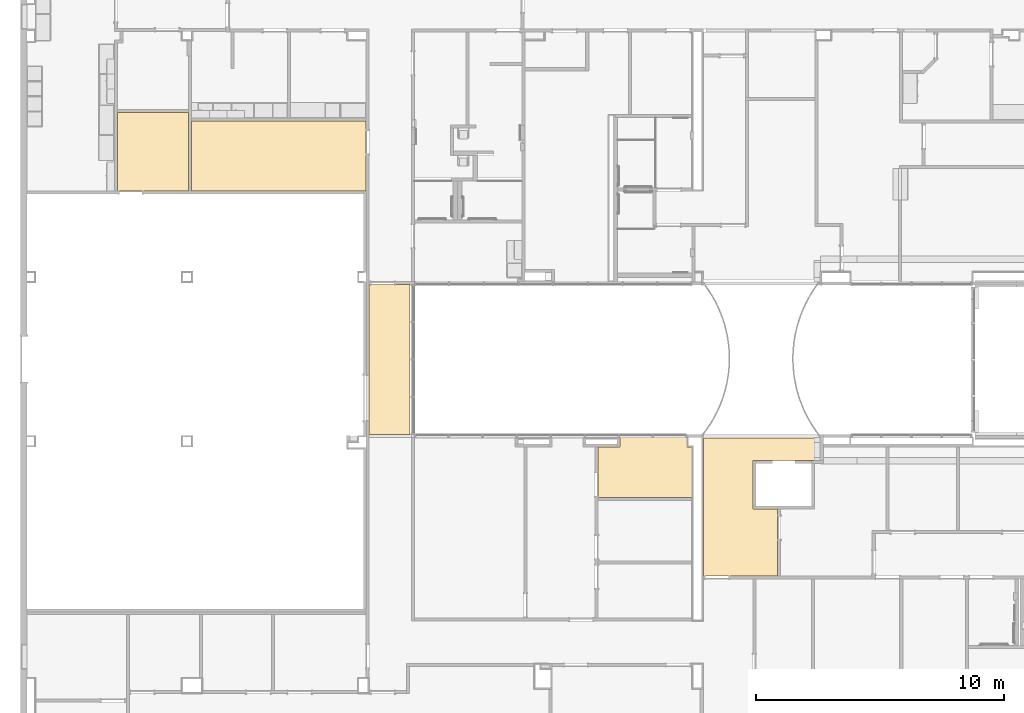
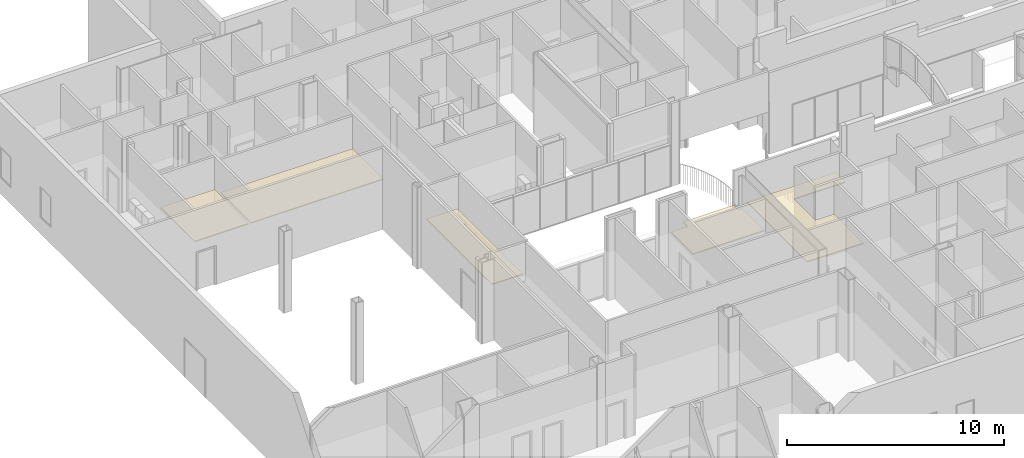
# One storey, part 27 of 47: 5 coverings.
"""IFC2X3 building model written with IfcOpenShell, lengths in metres."""

from ifc_helpers import new_model, entity, si_unit, converted_unit, frame, origin, place, context, project, spatial, face_set, surface_model, material, layer, layer_set, layer_usage, element, save


model = new_model("IFC2X3")

# Units and contexts
model_context = context("Model", 3, precision=1e-09, world=origin())
plan_context = context("Plan", 3, precision=1e-09, world=origin())
ifc_project = project(units=[si_unit("LENGTHUNIT", "METRE"), si_unit("AREAUNIT", "SQUARE_METRE"), si_unit("VOLUMEUNIT", "CUBIC_METRE"), converted_unit("PLANEANGLEUNIT", "DEGREE", entity("IfcRatioMeasure", 0.01745329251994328), si_unit("PLANEANGLEUNIT", "RADIAN"), dimensions=[0, 0, 0, 0, 0, 0, 0]), si_unit("TIMEUNIT", "SECOND")], contexts=[model_context, plan_context])

# Site, building, storey
site_placement = place(None, origin())
site = spatial("IfcSite", under=ifc_project, at=site_placement, Name="Default", CompositionType="ELEMENT")
building_placement = place(site_placement, origin())
building = spatial("IfcBuilding", under=site, at=building_placement, CompositionType="ELEMENT")
storey_placement = place(building_placement, frame((0.0, 0.0, 4.570000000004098)))
storey = spatial("IfcBuildingStorey", under=building, at=storey_placement, Name="Second Floor", CompositionType="ELEMENT", Elevation=4.570000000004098)

# Coverings
ifc_material_1 = material(Name="Default")
ifc_layer_1 = layer(ifc_material_1, 0.03599999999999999)
ifc_material_2 = material(Name="Ceiling Tile 600 x 600")
ifc_layer_2 = layer(ifc_material_2, 0.016)
ifc_layer_set = layer_set([ifc_layer_1, ifc_layer_2], Name="Compound Ceiling:ACT 600 x 600mm Grid")
ifc_layer_usage_1 = layer_usage(ifc_layer_set, "AXIS3", "NEGATIVE", 0.0)
covering_1_placement = place(storey_placement, origin())
element("IfcCovering", 1, at=covering_1_placement, inside=storey, material=ifc_layer_usage_1, Name="Compound Ceiling:ACT 600 x 600mm Grid", ObjectType="Compound Ceiling:ACT 600 x 600mm Grid", PredefinedType="CEILING", context=model_context, shape_type="SurfaceModel", body=[
    surface_model("IfcFaceBasedSurfaceModel", [(-40.60000000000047, 41.67443871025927, 2.732000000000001), (-40.60000000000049, 38.51843871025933, 2.732000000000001), (-43.47600000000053, 38.51843871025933, 2.732000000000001), (-43.47600000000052, 41.67443871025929, 2.732000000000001), (-40.60000000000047, 41.67443871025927, 2.680000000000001), (-40.60000000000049, 38.51843871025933, 2.680000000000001), (-43.47600000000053, 38.51843871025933, 2.680000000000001), (-43.47600000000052, 41.67443871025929, 2.680000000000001)], [face_set([[[0, 1, 2, 3]], [[4, 5, 6, 7]], [[3, 7, 4, 0]], [[2, 6, 7, 3]], [[1, 2, 6, 5]], [[0, 1, 5, 4]]])]),
])
ifc_layer_usage_2 = layer_usage(ifc_layer_set, "AXIS3", "NEGATIVE", 0.0)
covering_2_placement = place(storey_placement, origin())
element("IfcCovering", 2, at=covering_2_placement, inside=storey, material=ifc_layer_usage_2, Name="Compound Ceiling:ACT 600 x 600mm Grid", ObjectType="Compound Ceiling:ACT 600 x 600mm Grid", PredefinedType="CEILING", context=model_context, shape_type="SurfaceModel", body=[
    surface_model("IfcFaceBasedSurfaceModel", [(-33.44400000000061, 38.5184387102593, 2.732000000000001), (-40.47600000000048, 38.51843871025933, 2.732000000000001), (-40.47600000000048, 41.33443871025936, 2.732000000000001), (-33.4440000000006, 41.33443871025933, 2.732000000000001), (-33.44400000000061, 38.5184387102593, 2.680000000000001), (-40.47600000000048, 38.51843871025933, 2.680000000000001), (-40.47600000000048, 41.33443871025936, 2.680000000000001), (-33.4440000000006, 41.33443871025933, 2.680000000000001)], [face_set([[[0, 1, 2, 3]], [[4, 5, 6, 7]], [[3, 0, 4, 7]], [[2, 6, 7, 3]], [[1, 5, 6, 2]], [[0, 1, 5, 4]]])]),
])
ifc_layer_usage_3 = layer_usage(ifc_layer_set, "AXIS3", "NEGATIVE", 0.0)
covering_3_placement = place(storey_placement, origin())
element("IfcCovering", 3, at=covering_3_placement, inside=storey, material=ifc_layer_usage_3, Name="Compound Ceiling:ACT 600 x 600mm Grid", ObjectType="Compound Ceiling:ACT 600 x 600mm Grid", PredefinedType="CEILING", context=model_context, shape_type="SurfaceModel", body=[
    surface_model("IfcFaceBasedSurfaceModel", [(-19.83000000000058, 22.97443871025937, 2.732000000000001), (-19.83000000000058, 28.54543871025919, 2.732000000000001), (-15.10997500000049, 28.54543871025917, 2.732000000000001), (-15.1099750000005, 27.64589999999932, 2.732000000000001), (-17.82920000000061, 27.64589999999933, 2.732000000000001), (-17.82920000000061, 25.68339999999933, 2.732000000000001), (-16.83000000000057, 25.68339999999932, 2.732000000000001), (-16.83000000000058, 22.97443871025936, 2.732000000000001), (-19.83000000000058, 22.97443871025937, 2.680000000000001), (-19.83000000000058, 28.54543871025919, 2.680000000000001), (-15.10997500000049, 28.54543871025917, 2.680000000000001), (-15.1099750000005, 27.64589999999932, 2.680000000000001), (-17.82920000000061, 27.64589999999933, 2.680000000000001), (-17.82920000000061, 25.68339999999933, 2.680000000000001), (-16.83000000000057, 25.68339999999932, 2.680000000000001), (-16.83000000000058, 22.97443871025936, 2.680000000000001)], [face_set([[[0, 1, 2, 3, 4, 5, 6, 7]], [[8, 9, 10, 11, 12, 13, 14, 15]], [[7, 0, 8, 15]], [[6, 7, 15, 14]], [[5, 13, 14, 6]], [[4, 5, 13, 12]], [[3, 4, 12, 11]], [[2, 3, 11, 10]], [[1, 9, 10, 2]], [[0, 8, 9, 1]]])]),
])
ifc_layer_usage_4 = layer_usage(ifc_layer_set, "AXIS3", "NEGATIVE", 0.0)
covering_4_placement = place(storey_placement, origin())
element("IfcCovering", 4, at=covering_4_placement, inside=storey, material=ifc_layer_usage_4, Name="Compound Ceiling:ACT 600 x 600mm Grid", ObjectType="Compound Ceiling:ACT 600 x 600mm Grid", PredefinedType="CEILING", context=model_context, shape_type="SurfaceModel", body=[
    surface_model("IfcFaceBasedSurfaceModel", [(-23.1815000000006, 28.18443871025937, 2.732000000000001), (-23.1815000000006, 28.6074387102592, 2.732000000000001), (-20.49500000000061, 28.60743871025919, 2.732000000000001), (-20.49500000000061, 28.18443871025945, 2.732000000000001), (-20.29000000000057, 28.18443871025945, 2.732000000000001), (-20.29000000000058, 26.14843871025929, 2.732000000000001), (-24.0710000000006, 26.1484387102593, 2.732000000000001), (-24.07100000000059, 28.18443871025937, 2.732000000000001), (-23.1815000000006, 28.18443871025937, 2.680000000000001), (-23.1815000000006, 28.6074387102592, 2.680000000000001), (-20.49500000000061, 28.60743871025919, 2.680000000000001), (-20.49500000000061, 28.18443871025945, 2.680000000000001), (-20.29000000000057, 28.18443871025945, 2.680000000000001), (-20.29000000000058, 26.14843871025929, 2.680000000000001), (-24.0710000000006, 26.1484387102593, 2.680000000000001), (-24.07100000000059, 28.18443871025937, 2.680000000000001)], [face_set([[[0, 1, 2, 3, 4, 5, 6, 7]], [[8, 9, 10, 11, 12, 13, 14, 15]], [[7, 15, 8, 0]], [[6, 14, 15, 7]], [[5, 6, 14, 13]], [[4, 5, 13, 12]], [[3, 11, 12, 4]], [[2, 3, 11, 10]], [[1, 9, 10, 2]], [[0, 8, 9, 1]]])]),
])
ifc_layer_usage_5 = layer_usage(ifc_layer_set, "AXIS3", "NEGATIVE", 0.0)
covering_5_placement = place(storey_placement, origin())
element("IfcCovering", 5, at=covering_5_placement, inside=storey, material=ifc_layer_usage_5, Name="Compound Ceiling:ACT 600 x 600mm Grid", ObjectType="Compound Ceiling:ACT 600 x 600mm Grid", PredefinedType="CEILING", context=model_context, shape_type="SurfaceModel", body=[
    surface_model("IfcFaceBasedSurfaceModel", [(-33.32000000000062, 34.73436288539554, 2.732000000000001), (-31.67500000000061, 34.73436288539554, 2.732000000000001), (-31.67500000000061, 28.68243871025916, 2.732000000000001), (-33.3200000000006, 28.68243871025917, 2.732000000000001), (-33.32000000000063, 29.24387433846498, 2.732000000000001), (-33.32000000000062, 31.07387433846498, 2.732000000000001), (-33.32000000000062, 34.73436288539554, 2.680000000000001), (-31.67500000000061, 34.73436288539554, 2.680000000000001), (-31.67500000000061, 28.68243871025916, 2.680000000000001), (-33.3200000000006, 28.68243871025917, 2.680000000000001), (-33.32000000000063, 29.24387433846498, 2.680000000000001), (-33.32000000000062, 31.07387433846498, 2.680000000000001)], [face_set([[[0, 1, 2, 3, 4, 5]], [[6, 7, 8, 9, 10, 11]], [[5, 11, 6, 0]], [[4, 10, 11, 5]], [[3, 9, 10, 4]], [[2, 3, 9, 8]], [[1, 2, 8, 7]], [[0, 6, 7, 1]]])]),
])

save(model, "model.ifc")
